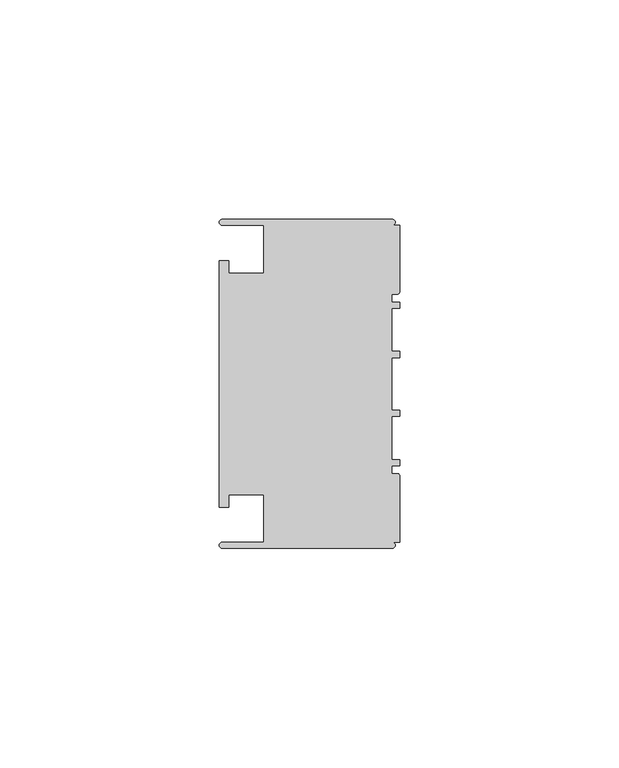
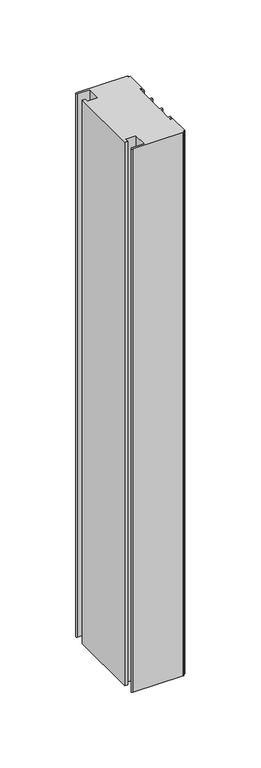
"""IFC4 building model written with IfcOpenShell, lengths in millimetres: member geometry, Прямоугольный импост : 3-AMG-2-Профиль 40Х75 Верх П."""

from ifc_helpers import new_model, si_unit, point, frame, frame_2d, origin, place, context, project, spatial, polyline, circle_curve, trimmed, segment, composite_curve, outline, extrude, source, transform, mapped, element, save


def member_e7198678(model_context):
    return source(origin(), model_context, "Body", "SweptSolid", [
        extrude(outline(composite_curve([segment(polyline([(-1.7, -37.5), (-40.4, -37.5)]), True, "CONTINUOUS"), segment(trimmed(circle_curve(frame_2d((-40.4, -36.8)), 0.7), [point((-40.4, -37.5))], [point((-40.4, -36.1))], False, "CARTESIAN"), True, "CONTINUOUS"), segment(polyline([(-40.4, -36.1), (-31.0, -36.1), (-31.0, -25.25), (-39.0, -25.25), (-39.0, -28.1), (-41.1, -28.1), (-41.1, 28.1), (-39.0, 28.1), (-39.0, 25.25), (-31.0, 25.25), (-31.0, 36.1), (-40.4, 36.1)]), True, "CONTINUOUS"), segment(trimmed(circle_curve(frame_2d((-40.4, 36.8)), 0.7), [point((-40.4, 36.1))], [point((-40.4, 37.5))], False, "CARTESIAN"), True, "CONTINUOUS"), segment(polyline([(-40.4, 37.5), (-1.7, 37.5)]), True, "CONTINUOUS"), segment(trimmed(circle_curve(frame_2d((-1.7, 36.8)), 0.7), [point((-1.7, 37.5))], [point((-1.7, 36.1))], False, "CARTESIAN"), True, "CONTINUOUS"), segment(polyline([(-1.7, 36.1), (0.0, 36.1), (0.0, 20.95)]), True, "CONTINUOUS"), segment(trimmed(circle_curve(frame_2d((-0.5, 20.95)), 0.5), [point((0.0, 20.95))], [point((-0.5, 20.45))], False, "CARTESIAN"), True, "CONTINUOUS"), segment(polyline([(-0.5, 20.45), (-1.8, 20.45), (-1.8, 18.65), (0.0, 18.65), (0.0, 17.25), (-1.8, 17.25), (-1.8, 7.4), (0.0, 7.4), (0.0, 6.0), (-1.8, 6.0), (-1.8, -6.0), (0.0, -6.0), (0.0, -7.4), (-1.8, -7.4), (-1.8, -17.25), (0.0, -17.25), (0.0, -18.65), (-1.8, -18.65), (-1.8, -20.45), (-0.5, -20.45)]), True, "CONTINUOUS"), segment(trimmed(circle_curve(frame_2d((-0.5, -20.95)), 0.5), [point((-0.5, -20.45))], [point((0.0, -20.95))], False, "CARTESIAN"), True, "CONTINUOUS"), segment(polyline([(0.0, -20.95), (0.0, -36.1), (-1.7, -36.1)]), True, "CONTINUOUS"), segment(trimmed(circle_curve(frame_2d((-1.7, -36.8)), 0.7), [point((-1.7, -36.1))], [point((-1.7, -37.5))], False, "CARTESIAN"), True, "CONTINUOUS")], self_intersect=False)), frame((0.0, 0.0, -440.0), z_axis=(0.0, 0.0, 1.0), x_axis=(1.0, 0.0, 0.0)), (0.0, 0.0, 1.0), 440.0),
    ])


if __name__ == "__main__":
    model = new_model("IFC4")
    model_context = context("Model", 3, world=origin())
    ifc_project = project(units=[si_unit("LENGTHUNIT", "METRE", prefix="MILLI")], contexts=[model_context])
    site = spatial("IfcSite", under=ifc_project)
    building = spatial("IfcBuilding", under=site)
    placement = place(None, origin())
    member_shape = member_e7198678(model_context)
    element("IfcMember", 1, ObjectType="Прямоугольный импост : 3-AMG-2-Профиль 40Х75 Верх П", at=placement, inside=building, context=model_context, shape_type="MappedRepresentation", body=[
        mapped(member_shape, transform((0.0, 0.0, 0.0), x_axis=(1.0, 0.0, 0.0), y_axis=(0.0, 1.0, 0.0), z_axis=(0.0, 0.0, 1.0))),
    ])
    save(model, "model.ifc")
